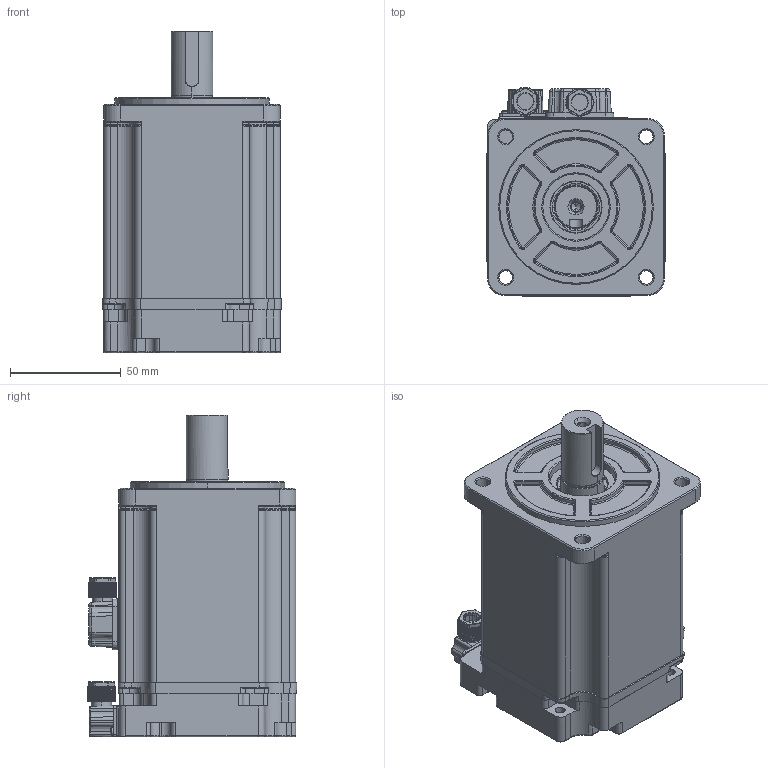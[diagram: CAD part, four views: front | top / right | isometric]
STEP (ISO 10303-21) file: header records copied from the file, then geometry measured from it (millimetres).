
FILE_DESCRIPTION (( 'STEP AP203' ), '1' );
FILE_NAME ('ZE80-1000w萇儂郪蚾.STEP', '2024-08-27T08:18:47', ( 'MicroSoft' ), ( 'MicroSoft' ), 'SwSTEP 2.0', 'SolidWorks 2020', '' );
FILE_SCHEMA (( 'CONFIG_CONTROL_DESIGN' ));
Length unit declared in the file: millimetre
Products named in the file (12): ZE80-1000w萇儂郪蚾; 80齿轭分离定子组装; GB╱T 818-2000[十字槽盘头螺钉M2×6]_M2×6; xl-80x6-62-01(2).stp; GB／T276-94深沟球轴承6004-2RZ; GB／T276-94深沟球轴承6201-2RZ; Z80A-01-01A(80粣都寞遴)_1000W; 80呿蹋裔.stp; 80儂褲党蜊 1000W; 80  綴裔(擄傖); 晤鎢ん2.stp; 晤鎢ん1.stp
Assembly tree (12 placements, depth 3):
  ZE80-1000w萇儂郪蚾
    80儂褲党蜊 1000W
    80齿轭分离定子组装
      xl-80x6-62-01(2).stp
    GB／T276-94深沟球轴承6004-2RZ
    GB／T276-94深沟球轴承6201-2RZ
    Z80A-01-01A(80粣都寞遴)_1000W
    晤鎢ん1.stp
    GB╱T 818-2000[十字槽盘头螺钉M2×6]_M2×6  x2
    80呿蹋裔.stp
    晤鎢ん2.stp
    80  綴裔(擄傖)
Bounding box: 80.88 x 94.79 x 145.6 mm (x, y, z)
Volume: 235440.7 mm3; surface area: 140848.4 mm2
Topology: 11 solids, 11 shells, 2461 faces, 6509 edges, 4052 vertices
Faces by surface type: cylinder 775, plane 730, cone 327, bspline 270, torus 215, sphere 144
Entity records: 93247 total; most frequent: CARTESIAN_POINT 35411, ORIENTED_EDGE 12594, DIRECTION 11012, EDGE_CURVE 6297, AXIS2_PLACEMENT_3D 4395, VERTEX_POINT 3966, EDGE_LOOP 2629, ADVANCED_FACE 2396
